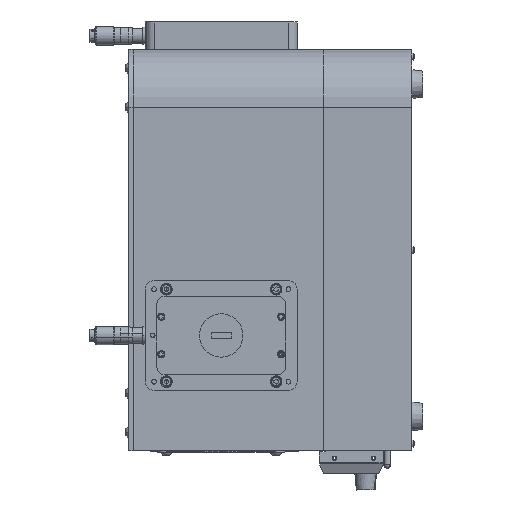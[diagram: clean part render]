
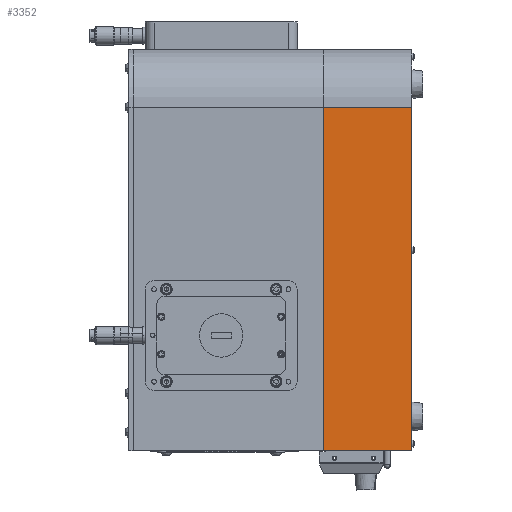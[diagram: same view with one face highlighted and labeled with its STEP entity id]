
A CAD part, left-side view. The second image highlights one B-rep face of the part: STEP entity #3352.
In plain terms, the highlighted planar face has unit normal (-1, 0, 0).
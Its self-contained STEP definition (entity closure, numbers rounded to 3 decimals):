
#787 = CARTESIAN_POINT ( 'NONE',  ( 0., -69., -278. ) ) ;
#1010 = ORIENTED_EDGE ( 'NONE', *, *, #15582, .F. ) ;
#1225 = CARTESIAN_POINT ( 'NONE',  ( 0., -69., 0. ) ) ;
#1956 = CARTESIAN_POINT ( 'NONE',  ( 0., -69., 0. ) ) ;
#2003 = CARTESIAN_POINT ( 'NONE',  ( 0., -8., -40. ) ) ;
#2093 = EDGE_LOOP ( 'NONE', ( #9145, #1010, #2479, #23939 ) ) ;
#2479 = ORIENTED_EDGE ( 'NONE', *, *, #3247, .F. ) ;
#2720 = CARTESIAN_POINT ( 'NONE',  ( 0., -69., -40. ) ) ;
#3247 = EDGE_CURVE ( 'NONE', #11939, #10804, #10128, .T. ) ;
#3352 = ADVANCED_FACE ( 'NONE', ( #7754 ), #12699, .F. ) ;
#4173 = DIRECTION ( 'NONE',  ( 0., 0., -1. ) ) ;
#4432 = DIRECTION ( 'NONE',  ( 0., 1., 0. ) ) ;
#4813 = EDGE_CURVE ( 'NONE', #21735, #12223, #20343, .T. ) ;
#7727 = VECTOR ( 'NONE', #4173, 1000. ) ;
#7754 = FACE_OUTER_BOUND ( 'NONE', #2093, .T. ) ;
#9145 = ORIENTED_EDGE ( 'NONE', *, *, #4813, .T. ) ;
#10128 = LINE ( 'NONE', #787, #13050 ) ;
#10340 = VECTOR ( 'NONE', #4432, 1000. ) ;
#10485 = DIRECTION ( 'NONE',  ( 0., 0., 1. ) ) ;
#10548 = DIRECTION ( 'NONE',  ( 0., 1., 0. ) ) ;
#10804 = VERTEX_POINT ( 'NONE', #23129 ) ;
#11870 = CARTESIAN_POINT ( 'NONE',  ( 0., -69., -278. ) ) ;
#11939 = VERTEX_POINT ( 'NONE', #11870 ) ;
#12046 = DIRECTION ( 'NONE',  ( 0., 0., 1. ) ) ;
#12223 = VERTEX_POINT ( 'NONE', #2003 ) ;
#12237 = VECTOR ( 'NONE', #12046, 1000. ) ;
#12699 = PLANE ( 'NONE',  #15300 ) ;
#12766 = CARTESIAN_POINT ( 'NONE',  ( 0., -69., -40. ) ) ;
#12830 = LINE ( 'NONE', #15751, #12237 ) ;
#13050 = VECTOR ( 'NONE', #10548, 1000. ) ;
#15300 = AXIS2_PLACEMENT_3D ( 'NONE', #1225, #18147, #10485 ) ;
#15582 = EDGE_CURVE ( 'NONE', #10804, #12223, #12830, .T. ) ;
#15751 = CARTESIAN_POINT ( 'NONE',  ( 0., -8., -40. ) ) ;
#18147 = DIRECTION ( 'NONE',  ( 1., 0., 0. ) ) ;
#19819 = EDGE_CURVE ( 'NONE', #21735, #11939, #21288, .T. ) ;
#20343 = LINE ( 'NONE', #2720, #10340 ) ;
#21288 = LINE ( 'NONE', #1956, #7727 ) ;
#21735 = VERTEX_POINT ( 'NONE', #12766 ) ;
#23129 = CARTESIAN_POINT ( 'NONE',  ( 0., -8., -278. ) ) ;
#23939 = ORIENTED_EDGE ( 'NONE', *, *, #19819, .F. ) ;
